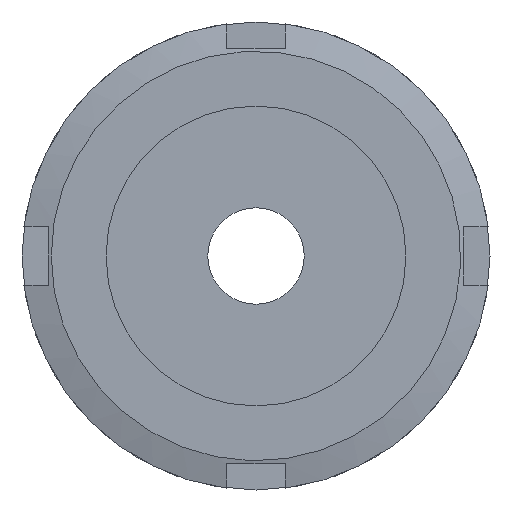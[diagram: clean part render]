
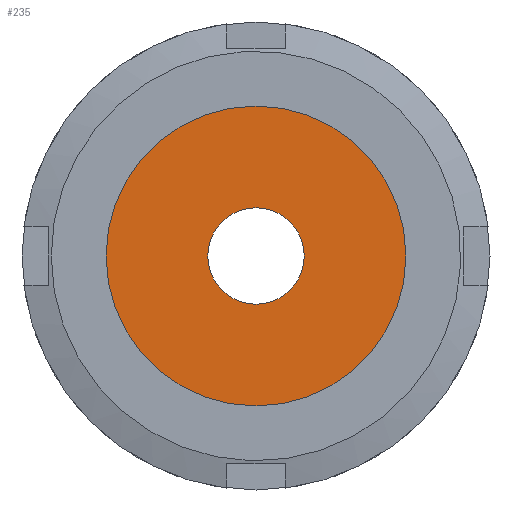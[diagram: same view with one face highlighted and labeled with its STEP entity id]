
A CAD part, left-side view. The second image highlights one B-rep face of the part: STEP entity #235.
In plain terms, the highlighted planar face has unit normal (-1, 0, 0) as drawn and (0, -1, 0) by its records, which use the part's own axes.
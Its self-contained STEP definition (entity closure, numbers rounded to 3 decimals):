
#235 = ADVANCED_FACE( '', ( #338, #339 ), #340, .T. );
#338 = FACE_OUTER_BOUND( '', #490, .T. );
#339 = FACE_BOUND( '', #491, .T. );
#340 = PLANE( '', #492 );
#490 = EDGE_LOOP( '', ( #783 ) );
#491 = EDGE_LOOP( '', ( #784 ) );
#492 = AXIS2_PLACEMENT_3D( '', #785, #786, #787 );
#783 = ORIENTED_EDGE( '', *, *, #1066, .T. );
#784 = ORIENTED_EDGE( '', *, *, #1067, .F. );
#785 = CARTESIAN_POINT( '', ( 3.3, 0., 0. ) );
#786 = DIRECTION( '', ( 0., -1., 0. ) );
#787 = DIRECTION( '', ( 0., 0., -1. ) );
#1066 = EDGE_CURVE( '', #1237, #1237, #1238, .T. );
#1067 = EDGE_CURVE( '', #1239, #1239, #1240, .T. );
#1237 = VERTEX_POINT( '', #1599 );
#1238 = CIRCLE( '', #1600, 10.25 );
#1239 = VERTEX_POINT( '', #1601 );
#1240 = CIRCLE( '', #1602, 3.3 );
#1599 = CARTESIAN_POINT( '', ( 0., 0., -10.25 ) );
#1600 = AXIS2_PLACEMENT_3D( '', #1843, #1844, #1845 );
#1601 = CARTESIAN_POINT( '', ( 0., 0., -3.3 ) );
#1602 = AXIS2_PLACEMENT_3D( '', #1846, #1847, #1848 );
#1843 = CARTESIAN_POINT( '', ( 0., 0., 0. ) );
#1844 = DIRECTION( '', ( 0., -1., 0. ) );
#1845 = DIRECTION( '', ( 0., 0., -1. ) );
#1846 = CARTESIAN_POINT( '', ( 0., 0., 0. ) );
#1847 = DIRECTION( '', ( 0., -1., 0. ) );
#1848 = DIRECTION( '', ( 0., 0., -1. ) );
